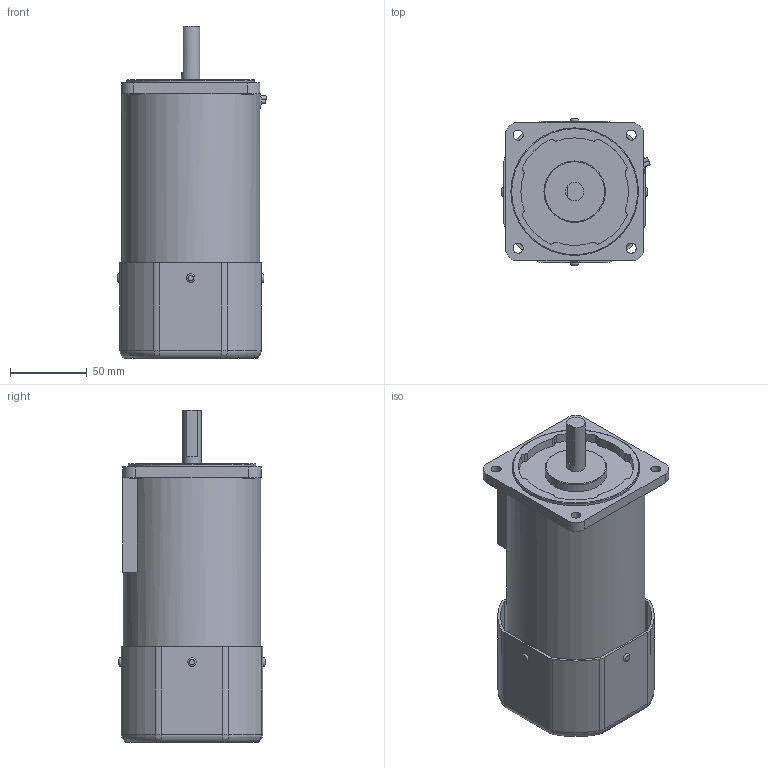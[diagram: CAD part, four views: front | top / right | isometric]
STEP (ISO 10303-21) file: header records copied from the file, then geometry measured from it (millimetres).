
FILE_DESCRIPTION((''),'2;1');
FILE_NAME('E:\2공장-도면\3D\표준형 3D(민규)\step file\K9IS150Fㅁ-B.stp','2014-11-11T10:45:44',('AHN'),(''),'Autodesk Inventor 2012','Autodesk Inventor 2012','');
FILE_SCHEMA(('CONFIG_CONTROL_DESIGN'));
Length unit declared in the file: millimetre
Products named in the file (1): K9IS150Fㅁ-B
Bounding box: 96.71 x 95 x 216 mm (x, y, z)
Volume: 1094591.4 mm3; surface area: 111545.4 mm2
Topology: 1 solids, 1 shells, 241 faces, 610 edges, 373 vertices
Faces by surface type: cylinder 120, plane 75, torus 38, bspline 8
Full cylindrical faces by diameter (mm): 6.5 x4, 8 x4, 12 x1, 40 x1, 83 x1, 90 x1
Entity records: 7831 total; most frequent: CARTESIAN_POINT 2011, DIRECTION 1252, ORIENTED_EDGE 1166, EDGE_CURVE 583, AXIS2_PLACEMENT_3D 492, VERTEX_POINT 364, EDGE_LOOP 304, VECTOR 268
